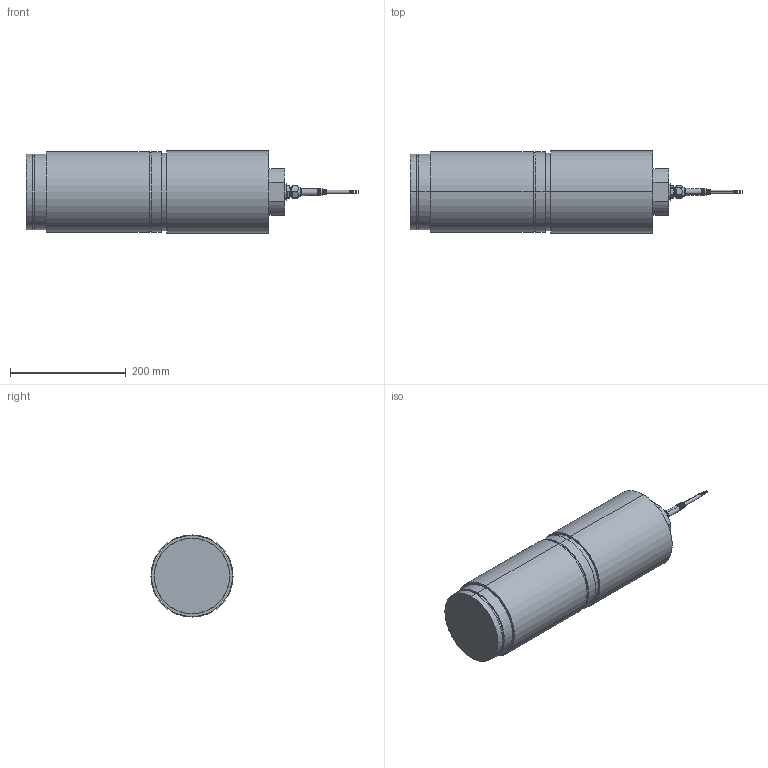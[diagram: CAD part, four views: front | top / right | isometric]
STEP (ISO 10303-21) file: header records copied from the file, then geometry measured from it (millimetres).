
FILE_DESCRIPTION (( 'STEP AP214' ), '1' );
FILE_NAME ('KIS-1 500 kN Load Cell.STEP', '2021-07-01T06:36:31', ( '' ), ( '' ), 'SwSTEP 2.0', 'SolidWorks 2021', '' );
FILE_SCHEMA (( 'AUTOMOTIVE_DESIGN' ));
Length unit declared in the file: millimetre
Products named in the file (5): M26x1.5 - Pg9 - 6369829; Pg9 - 1009.52 6_2_14; Standardkabel 4-Cond PVC; KIS-1 500 kN Load Cell; 1123656
Assembly tree (4 placements, depth 2):
  KIS-1 500 kN Load Cell
    1123656
    M26x1.5 - Pg9 - 6369829
    Pg9 - 1009.52 6_2_14
    Standardkabel 4-Cond PVC
Bounding box: 574 x 142 x 142 mm (x, y, z)
Volume: 6614138.1 mm3; surface area: 239641.2 mm2
Topology: 4 solids, 7 shells, 214 faces, 488 edges, 314 vertices
Faces by surface type: cylinder 87, plane 58, cone 43, bspline 16, torus 10
Entity records: 11074 total; most frequent: CARTESIAN_POINT 5431, DIRECTION 1012, ORIENTED_EDGE 976, EDGE_CURVE 488, AXIS2_PLACEMENT_3D 434, VERTEX_POINT 314, EDGE_LOOP 250, CIRCLE 229
